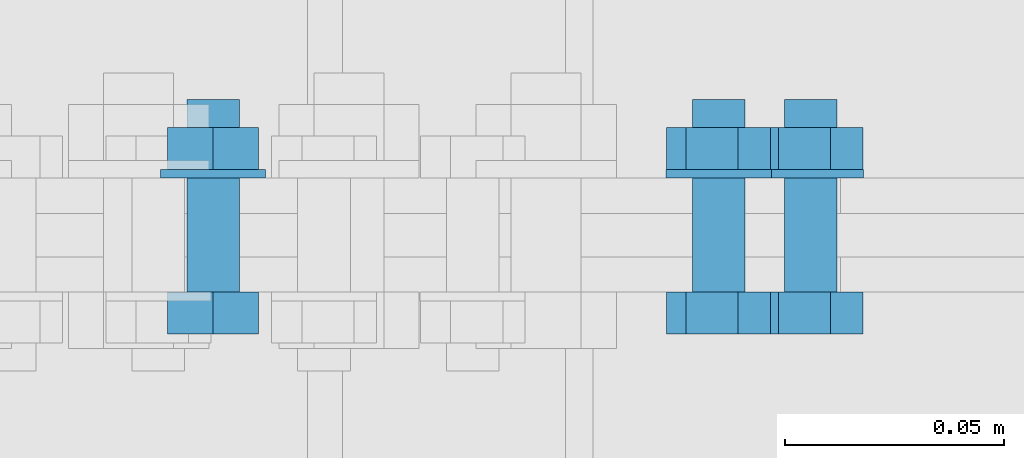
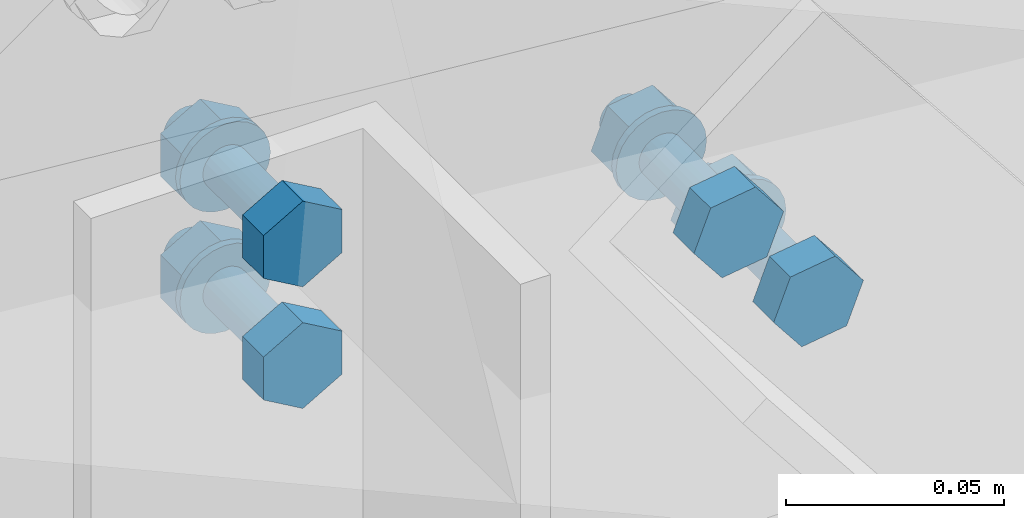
# One storey, part 156 of 251: 16 mechanical fasteners.
"""IFC4 building model written with IfcOpenShell, lengths in metres."""

from ifc_helpers import new_model, si_unit, frame, origin_with_axes, place, context, project, spatial, polyline, outline, extrude, type_object, element, save


model = new_model("IFC4")

# Units and contexts
model_context = context("Model", 3, precision=1e-05, world=origin_with_axes())
ifc_project = project(units=[si_unit("LENGTHUNIT", "METRE"), si_unit("AREAUNIT", "SQUARE_METRE"), si_unit("VOLUMEUNIT", "CUBIC_METRE"), si_unit("MASSUNIT", "GRAM", prefix="KILO"), si_unit("TIMEUNIT", "SECOND"), si_unit("PLANEANGLEUNIT", "RADIAN"), si_unit("SOLIDANGLEUNIT", "STERADIAN"), si_unit("THERMODYNAMICTEMPERATUREUNIT", "DEGREE_CELSIUS")], contexts=[model_context])

# Site, building, storey
placement_1 = place(None, origin_with_axes())
site = spatial("IfcSite", under=ifc_project, at=placement_1, Name="Italia", CompositionType="ELEMENT")
building = spatial("IfcBuilding", under=site, at=placement_1, Name="Deposito", CompositionType="ELEMENT")
storey = spatial("IfcBuildingStorey", under=building, at=placement_1, Name="Storey 0", CompositionType="ELEMENT", Elevation=0.0)

# Mechanical fasteners
mechanical_fastener_type_1 = type_object("IfcMechanicalFastenerType", Name="Reticolare 4", PredefinedType="BOLT")
placement_2 = place(placement_1, origin_with_axes())
mechanical_fastener_1_placement = place(placement_2, origin_with_axes())
element("IfcMechanicalFastener", 1, at=mechanical_fastener_1_placement, inside=storey, type_object=mechanical_fastener_type_1, Name="Reticolare 4", NominalDiameter=0.0120001, context=model_context, shape_type="SweptSolid", body=[
    extrude(outline(polyline([(0.0, 0.0), (0.0, -0.0120001), (-0.0103931, -0.0180001), (-0.0207863, -0.0120001), (-0.0207863, 0.0), (-0.0103931, 0.00600004), (0.0, 0.0)])), frame((17.0148, 9.987, 6.17871), z_axis=(0.0, -1.0, 0.0), x_axis=(1.0, 0.0, 0.0)), (0.0, 0.0, 1.0), 0.00960064),
])
mechanical_fastener_type_2 = type_object("IfcMechanicalFastenerType", Name="Reticolare 4", PredefinedType="BOLT")
mechanical_fastener_2_placement = place(placement_2, origin_with_axes())
element("IfcMechanicalFastener", 2, at=mechanical_fastener_2_placement, inside=storey, type_object=mechanical_fastener_type_2, Name="Reticolare 4", NominalDiameter=0.012, context=model_context, shape_type="SweptSolid", body=[
    extrude(outline(polyline([(0.0, 0.0), (-0.000204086, -0.00155306), (-0.000804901, -0.00299978), (-0.00175858, -0.00424242), (-0.00300026, -0.00519609), (-0.00444794, -0.00579548), (-0.00600052, -0.00600004), (-0.0075531, -0.00579548), (-0.00900078, -0.00519609), (-0.0102425, -0.00424242), (-0.0111961, -0.00299978), (-0.011797, -0.00155306), (-0.012001, 0.0), (-0.011797, 0.00155306), (-0.0111961, 0.00299978), (-0.0102425, 0.00424242), (-0.00900078, 0.00519609), (-0.0075531, 0.00579548), (-0.00600052, 0.00600004), (-0.00444794, 0.00579548), (-0.00300026, 0.00519609), (-0.00175858, 0.00424242), (-0.000804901, 0.00299978), (-0.000204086, 0.00155306), (0.0, 0.0)])), frame((17.0104, 10.031, 6.17271), z_axis=(0.0, -1.0, 0.0), x_axis=(1.0, 0.0, 0.0)), (0.0, 0.0, 1.0), 0.0439997),
])
mechanical_fastener_type_3 = type_object("IfcMechanicalFastenerType", Name="Reticolare 4", PredefinedType="BOLT")
mechanical_fastener_3_placement = place(placement_2, origin_with_axes())
element("IfcMechanicalFastener", 3, at=mechanical_fastener_3_placement, inside=storey, type_object=mechanical_fastener_type_3, Name="Reticolare 4", NominalDiameter=0.0120001, context=model_context, shape_type="SweptSolid", body=[
    extrude(outline(polyline([(0.0, 0.0), (0.0, -0.0120001), (-0.0103931, -0.0180001), (-0.0207863, -0.0120001), (-0.0207863, 0.0), (-0.0103931, 0.00600004), (0.0, 0.0)])), frame((17.0148, 10.0246, 6.17871), z_axis=(0.0, -1.0, 0.0), x_axis=(1.0, 0.0, 0.0)), (0.0, 0.0, 1.0), 0.00959969),
])
mechanical_fastener_type_4 = type_object("IfcMechanicalFastenerType", Name="Reticolare 4", PredefinedType="BOLT")
mechanical_fastener_4_placement = place(placement_2, origin_with_axes())
element("IfcMechanicalFastener", 4, at=mechanical_fastener_4_placement, inside=storey, type_object=mechanical_fastener_type_4, Name="Reticolare 4", NominalDiameter=0.024, context=model_context, shape_type="SweptSolid", body=[
    extrude(outline(polyline([(0.0, 0.0), (-0.000408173, -0.00310564), (-0.00160599, -0.00600004), (-0.00351334, -0.00848532), (-0.00599861, -0.0103922), (-0.00889397, -0.011591), (-0.0119991, -0.0120001), (-0.0151043, -0.011591), (-0.0179996, -0.0103922), (-0.0204849, -0.00848532), (-0.0223923, -0.00600004), (-0.0235901, -0.00310564), (-0.0239983, 0.0), (-0.0235901, 0.00310564), (-0.0223923, 0.00600004), (-0.0204849, 0.00848532), (-0.0179996, 0.0103922), (-0.0151043, 0.011591), (-0.0119991, 0.0120001), (-0.00889397, 0.011591), (-0.00599861, 0.0103922), (-0.00351334, 0.00848532), (-0.00160599, 0.00600004), (-0.000408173, 0.00310564), (0.0, 0.0)])), frame((17.0164, 10.015, 6.17271), z_axis=(0.0, -1.0, 0.0), x_axis=(1.0, 0.0, 0.0)), (0.0, 0.0, 1.0), 0.00200081),
])
mechanical_fastener_type_5 = type_object("IfcMechanicalFastenerType", Name="Reticolare 4", PredefinedType="BOLT")
mechanical_fastener_5_placement = place(placement_2, origin_with_axes())
element("IfcMechanicalFastener", 5, at=mechanical_fastener_5_placement, inside=storey, type_object=mechanical_fastener_type_5, Name="Reticolare 4", NominalDiameter=0.0120001, context=model_context, shape_type="SweptSolid", body=[
    extrude(outline(polyline([(0.0, 0.0), (0.0, -0.0120001), (-0.0103931, -0.0180001), (-0.0207863, -0.0120001), (-0.0207863, 0.0), (-0.0103931, 0.00600004), (0.0, 0.0)])), frame((17.0148, 9.987, 6.14471), z_axis=(0.0, -1.0, 0.0), x_axis=(1.0, 0.0, 0.0)), (0.0, 0.0, 1.0), 0.00960064),
])
mechanical_fastener_type_6 = type_object("IfcMechanicalFastenerType", Name="Reticolare 4", PredefinedType="BOLT")
mechanical_fastener_6_placement = place(placement_2, origin_with_axes())
element("IfcMechanicalFastener", 6, at=mechanical_fastener_6_placement, inside=storey, type_object=mechanical_fastener_type_6, Name="Reticolare 4", NominalDiameter=0.012, context=model_context, shape_type="SweptSolid", body=[
    extrude(outline(polyline([(0.0, 0.0), (-0.000204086, -0.00155306), (-0.000804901, -0.00299978), (-0.00175858, -0.00424242), (-0.00300026, -0.00519609), (-0.00444794, -0.00579548), (-0.00600052, -0.00600004), (-0.0075531, -0.00579548), (-0.00900078, -0.00519609), (-0.0102425, -0.00424242), (-0.0111961, -0.00299978), (-0.011797, -0.00155306), (-0.012001, 0.0), (-0.011797, 0.00155306), (-0.0111961, 0.00299978), (-0.0102425, 0.00424242), (-0.00900078, 0.00519609), (-0.0075531, 0.00579548), (-0.00600052, 0.00600004), (-0.00444794, 0.00579548), (-0.00300026, 0.00519609), (-0.00175858, 0.00424242), (-0.000804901, 0.00299978), (-0.000204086, 0.00155306), (0.0, 0.0)])), frame((17.0104, 10.031, 6.13871), z_axis=(0.0, -1.0, 0.0), x_axis=(1.0, 0.0, 0.0)), (0.0, 0.0, 1.0), 0.0439997),
])
mechanical_fastener_type_7 = type_object("IfcMechanicalFastenerType", Name="Reticolare 4", PredefinedType="BOLT")
mechanical_fastener_7_placement = place(placement_2, origin_with_axes())
element("IfcMechanicalFastener", 7, at=mechanical_fastener_7_placement, inside=storey, type_object=mechanical_fastener_type_7, Name="Reticolare 4", NominalDiameter=0.0120001, context=model_context, shape_type="SweptSolid", body=[
    extrude(outline(polyline([(0.0, 0.0), (0.0, -0.0120001), (-0.0103931, -0.0180001), (-0.0207863, -0.0120001), (-0.0207863, 0.0), (-0.0103931, 0.00600004), (0.0, 0.0)])), frame((17.0148, 10.0246, 6.14471), z_axis=(0.0, -1.0, 0.0), x_axis=(1.0, 0.0, 0.0)), (0.0, 0.0, 1.0), 0.00959969),
])
mechanical_fastener_type_8 = type_object("IfcMechanicalFastenerType", Name="Reticolare 4", PredefinedType="BOLT")
mechanical_fastener_8_placement = place(placement_2, origin_with_axes())
element("IfcMechanicalFastener", 8, at=mechanical_fastener_8_placement, inside=storey, type_object=mechanical_fastener_type_8, Name="Reticolare 4", NominalDiameter=0.024, context=model_context, shape_type="SweptSolid", body=[
    extrude(outline(polyline([(0.0, 0.0), (-0.000408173, -0.00310564), (-0.00160599, -0.00600004), (-0.00351334, -0.00848532), (-0.00599861, -0.0103922), (-0.00889397, -0.011591), (-0.0119991, -0.0120001), (-0.0151043, -0.011591), (-0.0179996, -0.0103922), (-0.0204849, -0.00848532), (-0.0223923, -0.00600004), (-0.0235901, -0.00310564), (-0.0239983, 0.0), (-0.0235901, 0.00310564), (-0.0223923, 0.00600004), (-0.0204849, 0.00848532), (-0.0179996, 0.0103922), (-0.0151043, 0.011591), (-0.0119991, 0.0120001), (-0.00889397, 0.011591), (-0.00599861, 0.0103922), (-0.00351334, 0.00848532), (-0.00160599, 0.00600004), (-0.000408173, 0.00310564), (0.0, 0.0)])), frame((17.0164, 10.015, 6.13871), z_axis=(0.0, -1.0, 0.0), x_axis=(1.0, 0.0, 0.0)), (0.0, 0.0, 1.0), 0.00200081),
])
mechanical_fastener_type_9 = type_object("IfcMechanicalFastenerType", Name="Reticolare 4", PredefinedType="BOLT")
mechanical_fastener_9_placement = place(placement_2, origin_with_axes())
element("IfcMechanicalFastener", 9, at=mechanical_fastener_9_placement, inside=storey, type_object=mechanical_fastener_type_9, Name="Reticolare 4", NominalDiameter=0.0119989, context=model_context, shape_type="SweptSolid", body=[
    extrude(outline(polyline([(0.0, 0.0), (-0.00743866, 0.00941753), (-0.00300026, 0.0205669), (0.00887299, 0.0222993), (0.0163097, 0.0128818), (0.0118732, 0.00173187), (0.0, 0.0)])), frame((17.1153, 9.987, 6.12441), z_axis=(0.0, -1.0, 0.0), x_axis=(1.0, 0.0, 0.0)), (0.0, 0.0, 1.0), 0.00960064),
])
mechanical_fastener_type_10 = type_object("IfcMechanicalFastenerType", Name="Reticolare 4", PredefinedType="BOLT")
mechanical_fastener_10_placement = place(placement_2, origin_with_axes())
element("IfcMechanicalFastener", 10, at=mechanical_fastener_10_placement, inside=storey, type_object=mechanical_fastener_type_10, Name="Reticolare 4", NominalDiameter=0.012, context=model_context, shape_type="SweptSolid", body=[
    extrude(outline(polyline([(0.0, 0.0), (-0.000204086, -0.00155306), (-0.000804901, -0.00299978), (-0.00175858, -0.00424242), (-0.00300026, -0.00519609), (-0.00444794, -0.00579548), (-0.00600052, -0.00600004), (-0.0075531, -0.00579548), (-0.00900078, -0.00519609), (-0.0102425, -0.00424242), (-0.0111961, -0.00299978), (-0.011797, -0.00155306), (-0.012001, 0.0), (-0.011797, 0.00155306), (-0.0111961, 0.00299978), (-0.0102425, 0.00424242), (-0.00900078, 0.00519609), (-0.0075531, 0.00579548), (-0.00600052, 0.00600004), (-0.00444794, 0.00579548), (-0.00300026, 0.00519609), (-0.00175858, 0.00424242), (-0.000804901, 0.00299978), (-0.000204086, 0.00155306), (0.0, 0.0)])), frame((17.1258, 10.031, 6.13556), z_axis=(0.0, -1.0, 0.0), x_axis=(1.0, 0.0, 0.0)), (0.0, 0.0, 1.0), 0.0439997),
])
mechanical_fastener_type_11 = type_object("IfcMechanicalFastenerType", Name="Reticolare 4", PredefinedType="BOLT")
mechanical_fastener_11_placement = place(placement_2, origin_with_axes())
element("IfcMechanicalFastener", 11, at=mechanical_fastener_11_placement, inside=storey, type_object=mechanical_fastener_type_11, Name="Reticolare 4", NominalDiameter=0.0119989, context=model_context, shape_type="SweptSolid", body=[
    extrude(outline(polyline([(0.0, 0.0), (-0.00743866, 0.00941753), (-0.00300026, 0.0205669), (0.00887299, 0.0222993), (0.0163097, 0.0128818), (0.0118732, 0.00173187), (0.0, 0.0)])), frame((17.1153, 10.0246, 6.12441), z_axis=(0.0, -1.0, 0.0), x_axis=(1.0, 0.0, 0.0)), (0.0, 0.0, 1.0), 0.00959969),
])
mechanical_fastener_type_12 = type_object("IfcMechanicalFastenerType", Name="Reticolare 4", PredefinedType="BOLT")
mechanical_fastener_12_placement = place(placement_2, origin_with_axes())
element("IfcMechanicalFastener", 12, at=mechanical_fastener_12_placement, inside=storey, type_object=mechanical_fastener_type_12, Name="Reticolare 4", NominalDiameter=0.024, context=model_context, shape_type="SweptSolid", body=[
    extrude(outline(polyline([(0.0, 0.0), (-0.000408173, -0.00310564), (-0.00160599, -0.00600004), (-0.00351334, -0.00848532), (-0.00599861, -0.0103922), (-0.00889397, -0.011591), (-0.0119991, -0.0120001), (-0.0151043, -0.011591), (-0.0179996, -0.0103922), (-0.0204849, -0.00848532), (-0.0223923, -0.00600004), (-0.0235901, -0.00310564), (-0.0239983, 0.0), (-0.0235901, 0.00310564), (-0.0223923, 0.00600004), (-0.0204849, 0.00848532), (-0.0179996, 0.0103922), (-0.0151043, 0.011591), (-0.0119991, 0.0120001), (-0.00889397, 0.011591), (-0.00599861, 0.0103922), (-0.00351334, 0.00848532), (-0.00160599, 0.00600004), (-0.000408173, 0.00310564), (0.0, 0.0)])), frame((17.1318, 10.015, 6.13556), z_axis=(0.0, -1.0, 0.0), x_axis=(1.0, 0.0, 0.0)), (0.0, 0.0, 1.0), 0.00200081),
])
mechanical_fastener_type_13 = type_object("IfcMechanicalFastenerType", Name="Reticolare 4", PredefinedType="BOLT")
mechanical_fastener_13_placement = place(placement_2, origin_with_axes())
element("IfcMechanicalFastener", 13, at=mechanical_fastener_13_placement, inside=storey, type_object=mechanical_fastener_type_13, Name="Reticolare 4", NominalDiameter=0.0119997, context=model_context, shape_type="SweptSolid", body=[
    extrude(outline(polyline([(0.0, 0.0), (-0.00743675, 0.00941753), (-0.00300026, 0.0205669), (0.00887489, 0.0222988), (0.0163116, 0.0128813), (0.0118752, 0.00173187), (0.0, 0.0)])), frame((17.1364, 9.987, 6.09773), z_axis=(0.0, -1.0, 0.0), x_axis=(1.0, 0.0, 0.0)), (0.0, 0.0, 1.0), 0.00960064),
])
mechanical_fastener_type_14 = type_object("IfcMechanicalFastenerType", Name="Reticolare 4", PredefinedType="BOLT")
mechanical_fastener_14_placement = place(placement_2, origin_with_axes())
element("IfcMechanicalFastener", 14, at=mechanical_fastener_14_placement, inside=storey, type_object=mechanical_fastener_type_14, Name="Reticolare 4", NominalDiameter=0.012, context=model_context, shape_type="SweptSolid", body=[
    extrude(outline(polyline([(0.0, 0.0), (-0.000204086, -0.00155306), (-0.000804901, -0.00299978), (-0.00175858, -0.00424242), (-0.00300026, -0.00519609), (-0.00444794, -0.00579548), (-0.00600052, -0.00600004), (-0.0075531, -0.00579548), (-0.00900078, -0.00519609), (-0.0102425, -0.00424242), (-0.0111961, -0.00299978), (-0.011797, -0.00155306), (-0.012001, 0.0), (-0.011797, 0.00155306), (-0.0111961, 0.00299978), (-0.0102425, 0.00424242), (-0.00900078, 0.00519609), (-0.0075531, 0.00579548), (-0.00600052, 0.00600004), (-0.00444794, 0.00579548), (-0.00300026, 0.00519609), (-0.00175858, 0.00424242), (-0.000804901, 0.00299978), (-0.000204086, 0.00155306), (0.0, 0.0)])), frame((17.1468, 10.031, 6.10888), z_axis=(0.0, -1.0, 0.0), x_axis=(1.0, 0.0, 0.0)), (0.0, 0.0, 1.0), 0.0439997),
])
mechanical_fastener_type_15 = type_object("IfcMechanicalFastenerType", Name="Reticolare 4", PredefinedType="BOLT")
mechanical_fastener_15_placement = place(placement_2, origin_with_axes())
element("IfcMechanicalFastener", 15, at=mechanical_fastener_15_placement, inside=storey, type_object=mechanical_fastener_type_15, Name="Reticolare 4", NominalDiameter=0.0119997, context=model_context, shape_type="SweptSolid", body=[
    extrude(outline(polyline([(0.0, 0.0), (-0.00743675, 0.00941753), (-0.00300026, 0.0205669), (0.00887489, 0.0222988), (0.0163116, 0.0128813), (0.0118752, 0.00173187), (0.0, 0.0)])), frame((17.1364, 10.0246, 6.09773), z_axis=(0.0, -1.0, 0.0), x_axis=(1.0, 0.0, 0.0)), (0.0, 0.0, 1.0), 0.00959969),
])
mechanical_fastener_type_16 = type_object("IfcMechanicalFastenerType", Name="Reticolare 4", PredefinedType="BOLT")
mechanical_fastener_16_placement = place(placement_2, origin_with_axes())
element("IfcMechanicalFastener", 16, at=mechanical_fastener_16_placement, inside=storey, type_object=mechanical_fastener_type_16, Name="Reticolare 4", NominalDiameter=0.024, context=model_context, shape_type="SweptSolid", body=[
    extrude(outline(polyline([(0.0, 0.0), (-0.000408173, -0.00310564), (-0.00160599, -0.00600004), (-0.00351334, -0.00848532), (-0.00599861, -0.0103922), (-0.00889397, -0.011591), (-0.0119991, -0.0120001), (-0.0151043, -0.011591), (-0.0179996, -0.0103922), (-0.0204849, -0.00848532), (-0.0223923, -0.00600004), (-0.0235901, -0.00310564), (-0.0239983, 0.0), (-0.0235901, 0.00310564), (-0.0223923, 0.00600004), (-0.0204849, 0.00848532), (-0.0179996, 0.0103922), (-0.0151043, 0.011591), (-0.0119991, 0.0120001), (-0.00889397, 0.011591), (-0.00599861, 0.0103922), (-0.00351334, 0.00848532), (-0.00160599, 0.00600004), (-0.000408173, 0.00310564), (0.0, 0.0)])), frame((17.1528, 10.015, 6.10888), z_axis=(0.0, -1.0, 0.0), x_axis=(1.0, 0.0, 0.0)), (0.0, 0.0, 1.0), 0.00200081),
])

save(model, "model.ifc")
